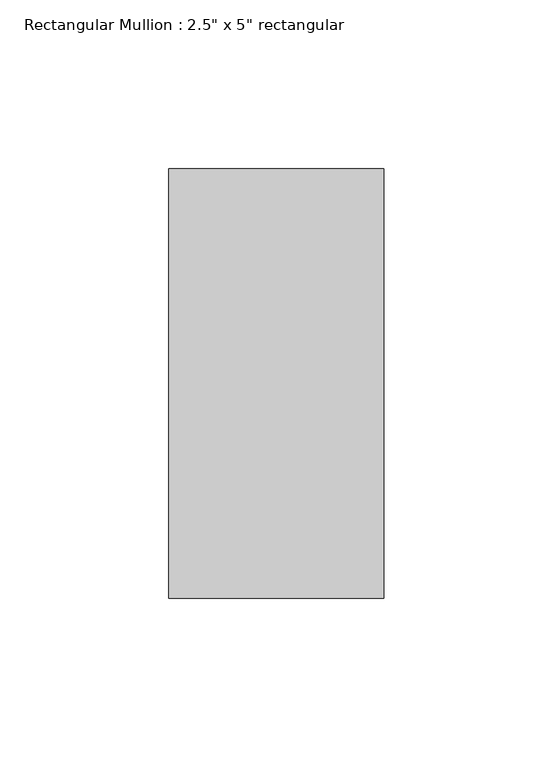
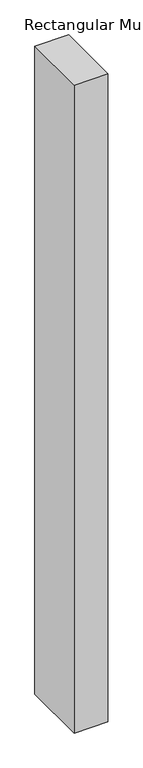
"""IFC4 building model written with IfcOpenShell, lengths in millimetres: member geometry."""

from ifc_helpers import new_model, si_unit, frame, origin, place, context, project, spatial, polyline, outline, extrude, source, transform, mapped, element, save


def member_98b79ab6(model_context):
    return source(origin(), model_context, "Body", "SweptSolid", [
        extrude(outline(polyline([(31.75, 63.5), (31.75, -63.5), (-31.75, -63.5), (-31.75, 63.5), (31.75, 63.5)])), frame((0.0, 0.0, -1282.7), z_axis=(0.0, 0.0, 1.0), x_axis=(1.0, 0.0, 0.0)), (0.0, 0.0, 1.0), 1282.7),
    ])


if __name__ == "__main__":
    model = new_model("IFC4")
    model_context = context("Model", 3, world=origin())
    ifc_project = project(units=[si_unit("LENGTHUNIT", "METRE", prefix="MILLI")], contexts=[model_context])
    site = spatial("IfcSite", under=ifc_project)
    building = spatial("IfcBuilding", under=site)
    placement = place(None, origin())
    member_shape = member_98b79ab6(model_context)
    element("IfcMember", 1, ObjectType="Rectangular Mullion : 2.5\" x 5\" rectangular", at=placement, inside=building, context=model_context, shape_type="MappedRepresentation", body=[
        mapped(member_shape, transform((0.0, 0.0, 0.0), x_axis=(1.0, 0.0, 0.0), y_axis=(0.0, 1.0, 0.0), z_axis=(0.0, 0.0, 1.0))),
    ])
    save(model, "model.ifc")
